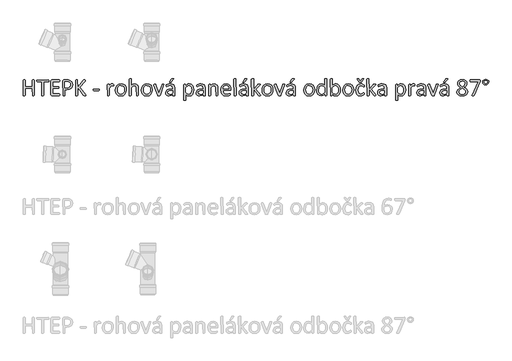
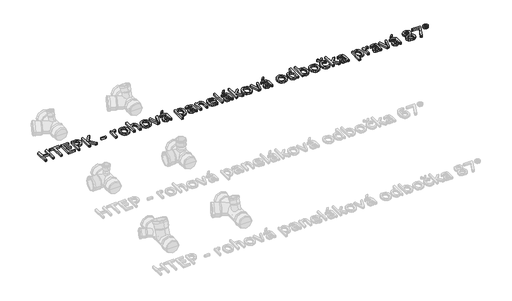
# One storey, part 12 of 26: 1 proxy.
"""IFC4 building model written with IfcOpenShell, lengths in millimetres."""

from ifc_helpers import new_model, si_unit, origin, origin_with_axes, place, context, project, spatial, polyline, outline, extrude, element, save

model = new_model("IFC4")

# Units and contexts
model_context = context("Model", 3, world=origin())
ifc_project = project(units=[si_unit("LENGTHUNIT", "METRE", prefix="MILLI")], contexts=[model_context])

# Site, building, storey
site = spatial("IfcSite", under=ifc_project)
building = spatial("IfcBuilding", under=site)
storey = spatial("IfcBuildingStorey", under=building, Name="Podlaží 1", Elevation=0.0)

# Proxy
placement = place(None, origin())
element("IfcBuildingElementProxy", 1, Name="120mm Arial", ObjectType="120mm Arial", at=placement, inside=storey, context=model_context, shape_type="SweptSolid", body=[
    extrude(outline(polyline([(-20465.0657483, 3328.0506997), (-20469.2817655, 3325.3184311), (-20473.1358927, 3325.0832026), (-20477.1166815, 3325.3184311), (-20479.5775327, 3325.8612659), (-20481.2784151, 3380.6694889), (-20534.5486061, 3380.6694889), (-20534.5486061, 3328.0145107), (-20538.7465288, 3325.3184311), (-20542.6549395, 3325.0832026), (-20546.5271613, 3325.3184311), (-20549.0603905, 3325.8793604), (-20550.7612729, 3442.5526591), (-20546.5271613, 3445.2849277), (-20542.6549395, 3445.5201562), (-20538.7465288, 3445.2849277), (-20536.2494886, 3444.7239984), (-20534.5486061, 3394.5660604), (-20481.2784151, 3394.5660604), (-20481.2784151, 3442.5526591), (-20477.1166815, 3445.2849277), (-20473.1358927, 3445.5201562), (-20469.2817655, 3445.2849277), (-20466.7666308, 3444.7239984), (-20465.0657483, 3328.0506997)])), origin_with_axes(), (0.0, 0.0, 1.0), 15.0),
    extrude(outline(polyline([(-20356.2092711, 3438.4633034), (-20356.390216, 3435.3329559), (-20356.9873343, 3433.1978056), (-20393.2667952, 3431.6235846), (-20393.2667952, 3328.0506997), (-20397.4647179, 3325.3184311), (-20401.3731287, 3325.0832026), (-20405.2453504, 3325.3184311), (-20407.7785796, 3325.8793604), (-20409.4794621, 3431.6235846), (-20443.3885442, 3431.6235846), (-20446.3017578, 3435.3329559), (-20446.5369862, 3438.4633034), (-20446.3017578, 3441.6660289), (-20445.686545, 3443.9097462), (-20359.3939021, 3445.5201562), (-20357.0054288, 3443.9097462), (-20356.390216, 3441.6660289), (-20356.2092711, 3438.4633034)])), origin_with_axes(), (0.0, 0.0, 1.0), 15.0),
    extrude(outline(polyline([(-20272.8298417, 3331.9952994), (-20273.0107867, 3328.9192354), (-20273.6621885, 3326.7298016), (-20274.7478581, 3325.463187), (-20334.0254212, 3325.0832026), (-20338.0785879, 3326.5307622), (-20339.9966043, 3331.5972206), (-20339.9966043, 3439.0061382), (-20338.0604934, 3444.0725966), (-20333.9530432, 3445.5201562), (-20276.0506617, 3445.5201562), (-20273.680283, 3443.8735572), (-20273.0650701, 3441.6841234), (-20272.8298417, 3438.4271144), (-20273.0650701, 3435.3691449), (-20273.680283, 3433.2159001), (-20323.7839374, 3431.6235846), (-20323.7839374, 3394.5660604), (-20282.9627585, 3394.5660604), (-20280.5742852, 3392.865178), (-20279.9590724, 3390.6757442), (-20279.7781275, 3387.3644517), (-20279.9590724, 3384.2702932), (-20280.5742852, 3382.1713319), (-20323.7839374, 3380.6694889), (-20323.7839374, 3338.9797742), (-20276.0868507, 3338.9797742), (-20273.6621885, 3337.3874587), (-20273.0107867, 3335.2342139), (-20272.8298417, 3331.9952994)])), origin_with_axes(), (0.0, 0.0, 1.0), 15.0),
    extrude(outline(polyline([(-20173.2377455, 3410.4892153), (-20176.2052426, 3394.3127375), (-20184.7096549, 3382.0265759), (-20198.2805255, 3374.1735655), (-20217.4606894, 3371.4051078), (-20231.140127, 3371.4051078), (-20231.140127, 3328.0506997), (-20232.8771985, 3325.8793604), (-20235.3380497, 3325.3184311), (-20239.2464605, 3325.0832026), (-20243.1548712, 3325.3184311), (-20245.6519114, 3325.8793604), (-20247.3527939, 3438.6804373), (-20245.3985885, 3443.9459352), (-20241.0197209, 3445.5201562), (-20215.1807831, 3445.5201562), (-20207.6896625, 3445.1944553), (-20199.2033447, 3443.8011792), (-20189.2151839, 3439.838485), (-20180.6022047, 3432.6911598), (-20175.1557619, 3422.8477549), (-20173.2377455, 3410.4892153)]), holes=[polyline([(-20189.4504124, 3409.2226008), (-20192.2369645, 3421.0021165), (-20199.1309668, 3428.0408747), (-20207.6172846, 3430.9902773), (-20216.1578858, 3431.6235846), (-20231.140127, 3431.6235846), (-20231.140127, 3385.3016794), (-20216.5197757, 3385.3016794), (-20204.3059921, 3387.0930343), (-20196.1453752, 3392.0509257), (-20191.1512948, 3399.6325188), (-20189.4504124, 3409.2226008)])]), origin_with_axes(), (0.0, 0.0, 1.0), 15.0),
    extrude(outline(polyline([(-20071.7095385, 3328.9373299), (-20073.1390035, 3325.9155494), (-20075.6541382, 3325.3184311), (-20079.7253994, 3325.0832026), (-20085.0089917, 3325.35462), (-20088.0669613, 3326.3679117), (-20089.7497492, 3328.0506997), (-20133.8641261, 3387.6901526), (-20133.8641261, 3328.0506997), (-20135.5650086, 3325.8793604), (-20138.0620488, 3325.3184311), (-20141.9704595, 3325.0832026), (-20145.8426813, 3325.3184311), (-20148.3759105, 3325.8793604), (-20149.6968086, 3326.8021796), (-20149.6968086, 3442.5526591), (-20145.8426813, 3445.2849277), (-20141.9704595, 3445.5201562), (-20138.0620488, 3445.2849277), (-20135.5650086, 3444.7239984), (-20133.8641261, 3389.535791), (-20091.4144427, 3442.5526591), (-20090.0935446, 3443.9459352), (-20088.3021897, 3444.8325654), (-20085.714677, 3445.3392112), (-20081.7519828, 3445.5201562), (-20077.879761, 3445.2849277), (-20075.5093823, 3444.6878094), (-20074.5684686, 3440.1641859), (-20076.8664693, 3436.8347989), (-20116.6381676, 3389.535791), (-20073.7904053, 3332.9362131), (-20071.7095385, 3328.9373299)])), origin_with_axes(), (0.0, 0.0, 1.0), 15.0),
    extrude(outline(polyline([(-19969.4213627, 3370.2832492), (-19970.2718039, 3365.7234367), (-19972.7507496, 3364.4568221), (-20012.341503, 3364.4568221), (-20014.8928266, 3365.7596256), (-20015.7432679, 3370.2832492), (-20014.8928266, 3374.7706838), (-20012.341503, 3376.0372984), (-19972.7507496, 3376.0372984), (-19969.6565911, 3372.9974233), (-19969.4213627, 3370.2832492)])), origin_with_axes(), (0.0, 0.0, 1.0), 15.0),
    extrude(outline(polyline([(-19858.2487902, 3406.1465367), (-19858.3392627, 3402.8533388), (-19858.7011525, 3400.7181885), (-19862.2476734, 3399.5058574), (-19864.5818632, 3400.3382041), (-19867.4950767, 3401.1343618), (-19870.9873141, 3401.5143462), (-19875.4023707, 3400.519149), (-19879.9440888, 3397.2621401), (-19884.9200747, 3391.254768), (-19890.6741238, 3382.0808594), (-19890.6741238, 3327.9059437), (-19894.7996685, 3325.2641476), (-19898.8166462, 3325.0832026), (-19902.761246, 3325.2641476), (-19905.2582862, 3325.8069824), (-19906.8867906, 3410.2720814), (-19903.1593248, 3412.9500666), (-19899.504237, 3413.0948225), (-19895.9215271, 3412.9500666), (-19893.7139989, 3412.4072317), (-19892.2302503, 3398.2573373), (-19885.9695553, 3406.8341275), (-19880.4145456, 3412.0634363), (-19875.2395203, 3414.687138), (-19870.0464004, 3415.4109178), (-19867.4046043, 3415.2842563), (-19864.2923513, 3414.795705), (-19861.3610432, 3413.9814527), (-19859.5154048, 3413.0948225), (-19858.2849792, 3409.4035457), (-19858.2487902, 3406.1465367)])), origin_with_axes(), (0.0, 0.0, 1.0), 15.0),
    extrude(outline(polyline([(-19760.9727893, 3369.9937373), (-19763.6507744, 3351.0126129), (-19771.6666353, 3336.0665606), (-19785.0203721, 3326.2774393), (-19803.6034176, 3322.7671074), (-19821.5169669, 3325.8612659), (-19834.2554908, 3334.8542295), (-19841.8551784, 3349.1850689), (-19844.3522186, 3368.2928548), (-19841.7104225, 3387.2739793), (-19833.748845, 3402.201937), (-19820.4493918, 3411.9367749), (-19801.8301572, 3415.4109178), (-19783.8985134, 3412.3167593), (-19771.1599895, 3403.3237956), (-19763.5241129, 3388.9929562), (-19760.9727893, 3369.9937373)]), holes=[polyline([(-19777.1854561, 3368.9080676), (-19778.4339762, 3381.4837411), (-19782.5414264, 3391.8699808), (-19790.2677754, 3398.9268335), (-19802.44537, 3401.5143462), (-19814.0077518, 3399.1439675), (-19821.9693293, 3392.4490046), (-19826.6196143, 3382.2075209), (-19828.1395518, 3369.2699575), (-19826.8910317, 3356.6219061), (-19822.7473925, 3346.2718554), (-19814.96676, 3339.2511916), (-19802.8072599, 3336.6636789), (-19791.2810671, 3339.0340577), (-19783.2652061, 3345.6747371), (-19778.6511101, 3355.8800318), (-19777.1854561, 3368.9080676)])]), origin_with_axes(), (0.0, 0.0, 1.0), 15.0),
    extrude(outline(polyline([(-19668.3289789, 3327.9421327), (-19672.4545235, 3325.2641476), (-19676.3991233, 3325.0832026), (-19680.416101, 3325.2641476), (-19682.8588577, 3325.8069824), (-19684.5416457, 3376.2906213), (-19685.6092208, 3387.6539636), (-19688.7033794, 3395.0908008), (-19693.9688772, 3399.8677472), (-19701.4419033, 3401.5143462), (-19712.4252613, 3397.479274), (-19723.9152651, 3385.6273803), (-19723.9152651, 3327.9421327), (-19728.0408098, 3325.2641476), (-19732.0577875, 3325.0832026), (-19736.0023872, 3325.2641476), (-19738.4994274, 3325.8250769), (-19740.1279319, 3451.8170401), (-19736.0023872, 3454.6035923), (-19732.0577875, 3454.7845372), (-19728.0408098, 3454.6035923), (-19725.5980531, 3454.0426629), (-19724.313344, 3453.1017492), (-19723.9152651, 3401.7314801), (-19710.8872293, 3412.0453419), (-19697.6782485, 3415.4109178), (-19683.8540549, 3412.5881767), (-19674.7887133, 3405.0427726), (-19669.8308219, 3393.9870366), (-19668.3289789, 3378.6790945), (-19668.3289789, 3327.9421327)])), origin_with_axes(), (0.0, 0.0, 1.0), 15.0),
    extrude(outline(polyline([(-19561.7885969, 3369.9937373), (-19564.466582, 3351.0126129), (-19572.482443, 3336.0665606), (-19585.8361797, 3326.2774393), (-19604.4192253, 3322.7671074), (-19622.3327746, 3325.8612659), (-19635.0712985, 3334.8542295), (-19642.6709861, 3349.1850689), (-19645.1680263, 3368.2928548), (-19642.5262301, 3387.2739793), (-19634.5646526, 3402.201937), (-19621.2651994, 3411.9367749), (-19602.6459648, 3415.4109178), (-19584.7143211, 3412.3167593), (-19571.9757971, 3403.3237956), (-19564.3399206, 3388.9929562), (-19561.7885969, 3369.9937373)]), holes=[polyline([(-19578.0012637, 3368.9080676), (-19579.2497838, 3381.4837411), (-19583.357234, 3391.8699808), (-19591.083583, 3398.9268335), (-19603.2611777, 3401.5143462), (-19614.8235595, 3399.1439675), (-19622.7851369, 3392.4490046), (-19627.4354219, 3382.2075209), (-19628.9553594, 3369.2699575), (-19627.7068393, 3356.6219061), (-19623.5632002, 3346.2718554), (-19615.7825677, 3339.2511916), (-19603.6230675, 3336.6636789), (-19592.0968747, 3339.0340577), (-19584.0810138, 3345.6747371), (-19579.4669178, 3355.8800318), (-19578.0012637, 3368.9080676)])]), origin_with_axes(), (0.0, 0.0, 1.0), 15.0),
    extrude(outline(polyline([(-19472.4289372, 3411.502507), (-19500.9187183, 3328.3764006), (-19501.895821, 3326.7298016), (-19503.7052705, 3325.7346044), (-19506.76324, 3325.2279586), (-19511.413525, 3325.0832026), (-19516.027621, 3325.2641476), (-19519.0494016, 3325.8069824), (-19520.858851, 3326.8202741), (-19521.8721427, 3328.3764006), (-19550.2443096, 3406.6169936), (-19550.8414279, 3408.5169155), (-19547.2406235, 3413.00435), (-19543.6579137, 3413.0948225), (-19539.3514241, 3412.9500666), (-19536.8543839, 3412.4434207), (-19534.7554225, 3410.1635145), (-19511.1963911, 3342.2729721), (-19487.2754697, 3410.1635145), (-19485.3031698, 3412.4434207), (-19482.8785076, 3412.9500666), (-19478.8434354, 3413.0948225), (-19475.315009, 3413.00435), (-19472.4289372, 3411.502507)])), origin_with_axes(), (0.0, 0.0, 1.0), 15.0),
    extrude(outline(polyline([(-19415.9107845, 3451.4913392), (-19414.5717919, 3453.0836547), (-19412.708059, 3454.0607574), (-19409.9757904, 3454.6035923), (-19406.0673797, 3454.7845372), (-19401.724701, 3454.4769308), (-19399.4086058, 3453.5903006), (-19399.6619287, 3450.6589925), (-19416.9602652, 3429.8503242), (-19418.3535412, 3428.4208591), (-19419.7830063, 3427.5704179), (-19421.8819676, 3427.1180555), (-19425.1027876, 3426.9913941), (-19428.4321745, 3427.2628115), (-19430.169246, 3427.9865913), (-19429.7711671, 3430.8274268), (-19415.9107845, 3451.4913392)])), origin_with_axes(), (0.0, 0.0, 1.0), 15.0),
    extrude(outline(polyline([(-19390.3975477, 3327.8697547), (-19391.1937054, 3326.1869668), (-19393.3650447, 3325.35462), (-19397.4182114, 3325.0832026), (-19401.5256616, 3325.35462), (-19403.7512844, 3326.1869668), (-19404.4388752, 3327.8697547), (-19404.4388752, 3336.1932221), (-19416.6345643, 3326.5669512), (-19430.8930257, 3322.7671074), (-19442.8534864, 3324.4860843), (-19451.955017, 3329.4620702), (-19457.7995386, 3337.4598367), (-19459.8804055, 3348.2441552), (-19457.0033809, 3360.5122223), (-19448.7522915, 3369.1613906), (-19435.5975942, 3374.3183214), (-19418.0821238, 3376.0372984), (-19406.6102145, 3376.0372984), (-19406.6102145, 3382.9493951), (-19407.6235062, 3391.9966423), (-19410.8805151, 3398.5468492), (-19416.6888478, 3402.4914489), (-19425.4646775, 3403.8304415), (-19435.5071217, 3402.3828819), (-19443.2877543, 3399.198251), (-19448.878953, 3396.01362), (-19452.2083399, 3394.5660604), (-19455.06727, 3398.0944868), (-19455.2482149, 3400.7543775), (-19454.922514, 3404.5542212), (-19453.3301986, 3407.2141119), (-19448.9875199, 3409.928286), (-19441.8944782, 3412.6062712), (-19433.1186485, 3414.61476), (-19423.5104721, 3415.4109178), (-19408.130152, 3413.3662399), (-19397.8705738, 3407.3950568), (-19392.1708081, 3397.6421245), (-19390.3975477, 3384.0350648), (-19390.3975477, 3327.8697547)]), holes=[polyline([(-19406.6102145, 3364.4568221), (-19419.4934944, 3364.4568221), (-19430.2416239, 3363.3892469), (-19437.823217, 3360.2408049), (-19442.2563681, 3355.2467245), (-19443.6677386, 3348.5336671), (-19439.6145719, 3338.1836164), (-19428.2512296, 3334.3475837), (-19417.2497771, 3337.4055532), (-19406.6102145, 3346.7604067), (-19406.6102145, 3364.4568221)])]), origin_with_axes(), (0.0, 0.0, 1.0), 15.0),
    extrude(outline(polyline([(-19244.4835463, 3370.3556272), (-19246.7996415, 3350.505967), (-19253.6031714, 3335.5599148), (-19264.7312853, 3326.0964943), (-19279.912566, 3322.7671074), (-19286.6256233, 3323.5089816), (-19292.6691844, 3325.8612659), (-19298.5318005, 3329.8963381), (-19304.702023, 3335.6141983), (-19304.702023, 3293.3454598), (-19306.384811, 3291.083648), (-19308.8275677, 3290.5227187), (-19312.8445454, 3290.3417737), (-19316.7891452, 3290.5227187), (-19319.2861854, 3291.083648), (-19320.5708945, 3292.0245617), (-19320.5708945, 3410.1997034), (-19317.1872241, 3412.9500666), (-19313.8216481, 3413.0948225), (-19310.4379777, 3412.9681611), (-19308.2304494, 3412.4977042), (-19306.6562284, 3399.8496527), (-19299.4727142, 3406.6893716), (-19292.5063339, 3411.5206015), (-19285.3047252, 3414.4338151), (-19277.5240927, 3415.4109178), (-19262.3247176, 3411.8463024), (-19252.0832339, 3402.1114645), (-19246.3110902, 3387.7444361), (-19244.4835463, 3370.3556272)]), holes=[polyline([(-19260.6962131, 3368.5823667), (-19261.6371268, 3380.8504338), (-19264.8760413, 3391.3814295), (-19271.0462638, 3398.7458886), (-19280.6725347, 3401.5143462), (-19286.3542059, 3400.663905), (-19292.0177826, 3397.9497309), (-19298.0432492, 3393.0642174), (-19304.702023, 3385.6273803), (-19304.702023, 3352.080188), (-19293.1034522, 3340.6263732), (-19281.5772594, 3336.6636789), (-19271.9871775, 3339.4321366), (-19265.5093486, 3346.7965957), (-19261.8723552, 3357.0923629), (-19260.6962131, 3368.5823667)])]), origin_with_axes(), (0.0, 0.0, 1.0), 15.0),
    extrude(outline(polyline([(-19156.4719264, 3327.8697547), (-19157.2680841, 3326.1869668), (-19159.4394235, 3325.35462), (-19163.4925902, 3325.0832026), (-19167.6000403, 3325.35462), (-19169.8256631, 3326.1869668), (-19170.5132539, 3327.8697547), (-19170.5132539, 3336.1932221), (-19182.708943, 3326.5669512), (-19196.9674045, 3322.7671074), (-19208.9278651, 3324.4860843), (-19218.0293957, 3329.4620702), (-19223.8739174, 3337.4598367), (-19225.9547842, 3348.2441552), (-19223.0777596, 3360.5122223), (-19214.8266703, 3369.1613906), (-19201.671973, 3374.3183214), (-19184.1565026, 3376.0372984), (-19172.6845932, 3376.0372984), (-19172.6845932, 3382.9493951), (-19173.6978849, 3391.9966423), (-19176.9548939, 3398.5468492), (-19182.7632265, 3402.4914489), (-19191.5390562, 3403.8304415), (-19201.5815005, 3402.3828819), (-19209.362133, 3399.198251), (-19214.9533317, 3396.01362), (-19218.2827187, 3394.5660604), (-19221.1416487, 3398.0944868), (-19221.3225937, 3400.7543775), (-19220.9968928, 3404.5542212), (-19219.4045773, 3407.2141119), (-19215.0618987, 3409.928286), (-19207.9688569, 3412.6062712), (-19199.1930273, 3414.61476), (-19189.5848508, 3415.4109178), (-19174.2045307, 3413.3662399), (-19163.9449525, 3407.3950568), (-19158.2451868, 3397.6421245), (-19156.4719264, 3384.0350648), (-19156.4719264, 3327.8697547)]), holes=[polyline([(-19172.6845932, 3364.4568221), (-19185.5678731, 3364.4568221), (-19196.3160027, 3363.3892469), (-19203.8975957, 3360.2408049), (-19208.3307468, 3355.2467245), (-19209.7421174, 3348.5336671), (-19205.6889507, 3338.1836164), (-19194.3256083, 3334.3475837), (-19183.3241558, 3337.4055532), (-19172.6845932, 3346.7604067), (-19172.6845932, 3364.4568221)])]), origin_with_axes(), (0.0, 0.0, 1.0), 15.0),
    extrude(outline(polyline([(-19059.1959255, 3327.9421327), (-19063.3214702, 3325.2641476), (-19067.2660699, 3325.0832026), (-19071.2830476, 3325.2641476), (-19073.7258043, 3325.8069824), (-19075.4085923, 3376.2906213), (-19076.4761675, 3387.6539636), (-19079.570326, 3395.0908008), (-19084.8358238, 3399.8677472), (-19092.3088499, 3401.5143462), (-19103.2922079, 3397.479274), (-19114.7822117, 3385.6273803), (-19114.7822117, 3327.9421327), (-19118.9077564, 3325.2641476), (-19122.9247341, 3325.0832026), (-19126.8693339, 3325.2641476), (-19129.3663741, 3325.8069824), (-19130.9948785, 3410.2720814), (-19127.2674127, 3412.9500666), (-19123.6123249, 3413.0948225), (-19120.029615, 3412.9500666), (-19117.8220867, 3412.4072317), (-19116.3383382, 3399.3791959), (-19102.4960501, 3411.5567905), (-19088.5813841, 3415.4109178), (-19074.7571905, 3412.5881767), (-19065.6737544, 3405.0427726), (-19060.6977685, 3393.9870366), (-19059.1959255, 3378.7514725), (-19059.1959255, 3327.9421327)])), origin_with_axes(), (0.0, 0.0, 1.0), 15.0),
    extrude(outline(polyline([(-18959.6038293, 3373.3955022), (-18961.3951842, 3368.2928548), (-18965.5026344, 3366.7729173), (-19019.8223061, 3366.7729173), (-19018.465219, 3353.3829916), (-19013.9596899, 3343.1776969), (-19005.7447896, 3336.6274899), (-18993.3681555, 3334.3475837), (-18983.0904828, 3335.4151588), (-18975.2736613, 3337.8217266), (-18969.8634075, 3340.2282943), (-18966.660682, 3341.2958695), (-18964.3626813, 3338.4007504), (-18964.2360198, 3335.7589542), (-18964.3264923, 3333.8228433), (-18968.7777379, 3328.4306841), (-18975.1289053, 3325.9336439), (-18984.1761524, 3323.7442101), (-18995.1414159, 3322.7671074), (-19012.8197368, 3325.6622265), (-19025.5763552, 3334.2752057), (-19033.3931767, 3348.6241396), (-19036.0349729, 3368.6547447), (-19033.2665153, 3388.1967985), (-19025.2868433, 3402.8895278), (-19012.6930753, 3412.1720033), (-18996.1547076, 3415.4109178), (-18979.5077729, 3412.2805703), (-18968.1987141, 3403.848536), (-18961.6846961, 3391.4176184), (-18959.6038293, 3376.1820543), (-18959.6038293, 3373.3955022)]), holes=[polyline([(-18975.8164961, 3378.3533936), (-18976.9881146, 3388.9793853), (-18981.009616, 3397.0450061), (-18987.7814804, 3402.1340826), (-18997.2041883, 3403.8304415), (-19006.8485537, 3401.7314801), (-19013.778745, 3396.1402814), (-19018.1033291, 3388.0158535), (-19019.8223061, 3378.3533936), (-18975.8164961, 3378.3533936)])]), origin_with_axes(), (0.0, 0.0, 1.0), 15.0),
    extrude(outline(polyline([(-18920.2302099, 3327.9421327), (-18924.3557546, 3325.2641476), (-18928.3727323, 3325.0832026), (-18932.317332, 3325.2641476), (-18934.8143722, 3325.8250769), (-18936.4428767, 3451.8170401), (-18932.317332, 3454.6035923), (-18928.3727323, 3454.7845372), (-18924.3557546, 3454.6035923), (-18921.9129978, 3454.0426629), (-18920.2302099, 3327.9421327)])), origin_with_axes(), (0.0, 0.0, 1.0), 15.0),
    extrude(outline(polyline([(-18827.5863995, 3327.8697547), (-18828.3825572, 3326.1869668), (-18830.5538965, 3325.35462), (-18834.6070632, 3325.0832026), (-18838.7145134, 3325.35462), (-18840.9401362, 3326.1869668), (-18841.627727, 3327.8697547), (-18841.627727, 3336.1932221), (-18853.8234161, 3326.5669512), (-18868.0818775, 3322.7671074), (-18880.0423382, 3324.4860843), (-18889.1438688, 3329.4620702), (-18894.9883904, 3337.4598367), (-18897.0692573, 3348.2441552), (-18894.1922327, 3360.5122223), (-18885.9411433, 3369.1613906), (-18872.786446, 3374.3183214), (-18855.2709756, 3376.0372984), (-18843.7990663, 3376.0372984), (-18843.7990663, 3382.9493951), (-18844.812358, 3391.9966423), (-18848.0693669, 3398.5468492), (-18853.8776996, 3402.4914489), (-18862.6535293, 3403.8304415), (-18872.6959736, 3402.3828819), (-18880.4766061, 3399.198251), (-18886.0678048, 3396.01362), (-18889.3971917, 3394.5660604), (-18892.2561218, 3398.0944868), (-18892.4370668, 3400.7543775), (-18892.1113659, 3404.5542212), (-18890.5190504, 3407.2141119), (-18886.1763718, 3409.928286), (-18879.08333, 3412.6062712), (-18870.3075003, 3414.61476), (-18860.6993239, 3415.4109178), (-18845.3190038, 3413.3662399), (-18835.0594256, 3407.3950568), (-18829.3596599, 3397.6421245), (-18827.5863995, 3384.0350648), (-18827.5863995, 3327.8697547)]), holes=[polyline([(-18843.7990663, 3364.4568221), (-18856.6823462, 3364.4568221), (-18867.4304757, 3363.3892469), (-18875.0120688, 3360.2408049), (-18879.4452199, 3355.2467245), (-18880.8565905, 3348.5336671), (-18876.8034238, 3338.1836164), (-18865.4400814, 3334.3475837), (-18854.4386289, 3337.4055532), (-18843.7990663, 3346.7604067), (-18843.7990663, 3364.4568221)])]), origin_with_axes(), (0.0, 0.0, 1.0), 15.0),
    extrude(outline(polyline([(-18853.0996363, 3451.4913392), (-18851.7606438, 3453.0836547), (-18849.8969109, 3454.0607574), (-18847.1646422, 3454.6035923), (-18843.2562315, 3454.7845372), (-18838.9135529, 3454.4769308), (-18836.5974576, 3453.5903006), (-18836.8507805, 3450.6589925), (-18854.149117, 3429.8503242), (-18855.542393, 3428.4208591), (-18856.9718581, 3427.5704179), (-18859.0708194, 3427.1180555), (-18862.2916394, 3426.9913941), (-18865.6210263, 3427.2628115), (-18867.3580978, 3427.9865913), (-18866.9600189, 3430.8274268), (-18853.0996363, 3451.4913392)])), origin_with_axes(), (0.0, 0.0, 1.0), 15.0),
    extrude(outline(polyline([(-18732.6264938, 3328.0145107), (-18736.697755, 3325.2641476), (-18740.6966382, 3325.0832026), (-18744.8221829, 3325.2279586), (-18747.572546, 3325.6803209), (-18749.3819955, 3326.5850457), (-18750.6486101, 3328.0145107), (-18785.8966848, 3373.5764471), (-18785.8966848, 3327.9059437), (-18790.0222295, 3325.2641476), (-18794.0392072, 3325.0832026), (-18797.9838069, 3325.2641476), (-18800.4808471, 3325.8250769), (-18802.1093516, 3451.8170401), (-18797.9838069, 3454.6035923), (-18794.0392072, 3454.7845372), (-18790.0222295, 3454.6035923), (-18787.5794728, 3454.0426629), (-18786.2947637, 3453.1017492), (-18785.8966848, 3375.6754085), (-18753.6884851, 3409.9101915), (-18752.0780751, 3411.4120346), (-18750.0514918, 3412.4072317), (-18747.2649396, 3412.9500666), (-18743.3746234, 3413.0948225), (-18739.3938347, 3412.9500666), (-18736.806322, 3412.4977042), (-18735.3768569, 3411.683452), (-18735.5758964, 3408.1550256), (-18737.6929522, 3405.6037019), (-18769.684018, 3375.7839754), (-18734.9064001, 3332.3210003), (-18733.1512342, 3329.8058656), (-18732.6264938, 3328.0145107)])), origin_with_axes(), (0.0, 0.0, 1.0), 15.0),
    extrude(outline(polyline([(-18637.6665882, 3369.9937373), (-18640.3445733, 3351.0126129), (-18648.3604342, 3336.0665606), (-18661.714171, 3326.2774393), (-18680.2972165, 3322.7671074), (-18698.2107658, 3325.8612659), (-18710.9492897, 3334.8542295), (-18718.5489773, 3349.1850689), (-18721.0460175, 3368.2928548), (-18718.4042214, 3387.2739793), (-18710.4426439, 3402.201937), (-18697.1431907, 3411.9367749), (-18678.5239561, 3415.4109178), (-18660.5923123, 3412.3167593), (-18647.8537884, 3403.3237956), (-18640.2179118, 3388.9929562), (-18637.6665882, 3369.9937373)]), holes=[polyline([(-18653.879255, 3368.9080676), (-18655.1277751, 3381.4837411), (-18659.2352253, 3391.8699808), (-18666.9615743, 3398.9268335), (-18679.1391689, 3401.5143462), (-18690.7015507, 3399.1439675), (-18698.6631282, 3392.4490046), (-18703.3134132, 3382.2075209), (-18704.8333507, 3369.2699575), (-18703.5848306, 3356.6219061), (-18699.4411914, 3346.2718554), (-18691.6605589, 3339.2511916), (-18679.5010588, 3336.6636789), (-18667.974866, 3339.0340577), (-18659.959005, 3345.6747371), (-18655.344909, 3355.8800318), (-18653.879255, 3368.9080676)])]), origin_with_axes(), (0.0, 0.0, 1.0), 15.0),
    extrude(outline(polyline([(-18548.3069285, 3411.502507), (-18576.7967096, 3328.3764006), (-18577.7738123, 3326.7298016), (-18579.5832617, 3325.7346044), (-18582.6412312, 3325.2279586), (-18587.2915163, 3325.0832026), (-18591.9056123, 3325.2641476), (-18594.9273928, 3325.8069824), (-18596.7368422, 3326.8202741), (-18597.7501339, 3328.3764006), (-18626.1223008, 3406.6169936), (-18626.7194192, 3408.5169155), (-18623.1186148, 3413.00435), (-18619.535905, 3413.0948225), (-18615.2294153, 3412.9500666), (-18612.7323751, 3412.4434207), (-18610.6334138, 3410.1635145), (-18587.0743823, 3342.2729721), (-18563.153461, 3410.1635145), (-18561.1811611, 3412.4434207), (-18558.7564989, 3412.9500666), (-18554.7214267, 3413.0948225), (-18551.1930003, 3413.00435), (-18548.3069285, 3411.502507)])), origin_with_axes(), (0.0, 0.0, 1.0), 15.0),
    extrude(outline(polyline([(-18466.2755389, 3327.8697547), (-18467.0716967, 3326.1869668), (-18469.243036, 3325.35462), (-18473.2962027, 3325.0832026), (-18477.4036529, 3325.35462), (-18479.6292757, 3326.1869668), (-18480.3168664, 3327.8697547), (-18480.3168664, 3336.1932221), (-18492.5125555, 3326.5669512), (-18506.771017, 3322.7671074), (-18518.7314777, 3324.4860843), (-18527.8330082, 3329.4620702), (-18533.6775299, 3337.4598367), (-18535.7583967, 3348.2441552), (-18532.8813721, 3360.5122223), (-18524.6302828, 3369.1613906), (-18511.4755855, 3374.3183214), (-18493.9601151, 3376.0372984), (-18482.4882057, 3376.0372984), (-18482.4882057, 3382.9493951), (-18483.5014974, 3391.9966423), (-18486.7585064, 3398.5468492), (-18492.566839, 3402.4914489), (-18501.3426687, 3403.8304415), (-18511.385113, 3402.3828819), (-18519.1657455, 3399.198251), (-18524.7569442, 3396.01362), (-18528.0863312, 3394.5660604), (-18530.9452613, 3398.0944868), (-18531.1262062, 3400.7543775), (-18530.8005053, 3404.5542212), (-18529.2081898, 3407.2141119), (-18524.8655112, 3409.928286), (-18517.7724695, 3412.6062712), (-18508.9966398, 3414.61476), (-18499.3884633, 3415.4109178), (-18484.0081433, 3413.3662399), (-18473.748565, 3407.3950568), (-18468.0487994, 3397.6421245), (-18466.2755389, 3384.0350648), (-18466.2755389, 3327.8697547)]), holes=[polyline([(-18482.4882057, 3364.4568221), (-18495.3714856, 3364.4568221), (-18506.1196152, 3363.3892469), (-18513.7012083, 3360.2408049), (-18518.1343593, 3355.2467245), (-18519.5457299, 3348.5336671), (-18515.4925632, 3338.1836164), (-18504.1292208, 3334.3475837), (-18493.1277683, 3337.4055532), (-18482.4882057, 3346.7604067), (-18482.4882057, 3364.4568221)])]), origin_with_axes(), (0.0, 0.0, 1.0), 15.0),
    extrude(outline(polyline([(-18491.7887758, 3451.4913392), (-18490.4497832, 3453.0836547), (-18488.5860503, 3454.0607574), (-18485.8537817, 3454.6035923), (-18481.9453709, 3454.7845372), (-18477.6026923, 3454.4769308), (-18475.286597, 3453.5903006), (-18475.53992, 3450.6589925), (-18492.8382564, 3429.8503242), (-18494.2315325, 3428.4208591), (-18495.6609975, 3427.5704179), (-18497.7599589, 3427.1180555), (-18500.9807788, 3426.9913941), (-18504.3101658, 3427.2628115), (-18506.0472372, 3427.9865913), (-18505.6491583, 3430.8274268), (-18491.7887758, 3451.4913392)])), origin_with_axes(), (0.0, 0.0, 1.0), 15.0),
    extrude(outline(polyline([(-18318.0454423, 3369.9937373), (-18320.7234274, 3351.0126129), (-18328.7392884, 3336.0665606), (-18342.0930251, 3326.2774393), (-18360.6760707, 3322.7671074), (-18378.5896199, 3325.8612659), (-18391.3281439, 3334.8542295), (-18398.9278314, 3349.1850689), (-18401.4248716, 3368.2928548), (-18398.7830755, 3387.2739793), (-18390.821498, 3402.201937), (-18377.5220448, 3411.9367749), (-18358.9028102, 3415.4109178), (-18340.9711665, 3412.3167593), (-18328.2326425, 3403.3237956), (-18320.596766, 3388.9929562), (-18318.0454423, 3369.9937373)]), holes=[polyline([(-18334.2581091, 3368.9080676), (-18335.5066292, 3381.4837411), (-18339.6140794, 3391.8699808), (-18347.3404284, 3398.9268335), (-18359.518023, 3401.5143462), (-18371.0804048, 3399.1439675), (-18379.0419823, 3392.4490046), (-18383.6922673, 3382.2075209), (-18385.2122048, 3369.2699575), (-18383.9636847, 3356.6219061), (-18379.8200455, 3346.2718554), (-18372.039413, 3339.2511916), (-18359.8799129, 3336.6636789), (-18348.3537201, 3339.0340577), (-18340.3378592, 3345.6747371), (-18335.7237631, 3355.8800318), (-18334.2581091, 3368.9080676)])]), origin_with_axes(), (0.0, 0.0, 1.0), 15.0),
    extrude(outline(polyline([(-18225.7273328, 3327.9783217), (-18229.1110032, 3325.2641476), (-18232.4222956, 3325.0832026), (-18235.8602495, 3325.2641476), (-18238.1039668, 3325.7346044), (-18239.7686603, 3338.0388605), (-18253.2128695, 3326.8021796), (-18268.4665281, 3322.7671074), (-18283.8830372, 3326.3679117), (-18294.2149934, 3336.1027496), (-18300.0052315, 3350.542156), (-18301.8327755, 3368.0033429), (-18299.5528692, 3387.6358691), (-18292.8217173, 3402.5819214), (-18281.7840759, 3412.0815308), (-18266.5485117, 3415.4109178), (-18253.3938144, 3412.1720033), (-18241.6142987, 3402.6723938), (-18241.6142987, 3451.7808512), (-18239.9496052, 3453.9883794), (-18237.452565, 3454.5493088), (-18233.6165323, 3454.7845372), (-18229.5995545, 3454.5493088), (-18227.1567978, 3453.9883794), (-18225.8358997, 3453.0655602), (-18225.7273328, 3327.9783217)]), holes=[polyline([(-18241.6142987, 3386.1702151), (-18253.230964, 3397.587841), (-18264.9200072, 3401.5143462), (-18274.5100892, 3398.7639831), (-18280.9155401, 3391.5080909), (-18284.49825, 3381.3027962), (-18285.6201086, 3369.7404144), (-18284.6791949, 3357.5085363), (-18281.4040915, 3346.9051627), (-18275.2157745, 3339.4683255), (-18265.5352201, 3336.6636789), (-18259.8535489, 3337.4779312), (-18254.2442557, 3340.1740108), (-18248.2549781, 3345.0595243), (-18241.6142987, 3352.4782669), (-18241.6142987, 3386.1702151)])]), origin_with_axes(), (0.0, 0.0, 1.0), 15.0),
    extrude(outline(polyline([(-18121.1773452, 3370.1746822), (-18123.4934404, 3350.4516835), (-18130.3150648, 3335.5056313), (-18141.3888952, 3326.0422108), (-18156.4254199, 3322.7671074), (-18163.6632176, 3323.5632651), (-18170.1772355, 3326.1507778), (-18176.5464975, 3330.6563069), (-18183.2776493, 3337.2065138), (-18183.2776493, 3327.7611878), (-18187.1679656, 3325.2641476), (-18190.551636, 3325.0832026), (-18193.8810229, 3325.2641476), (-18196.1428347, 3325.7707934), (-18197.6084888, 3451.8170401), (-18193.4829441, 3454.6035923), (-18189.5383443, 3454.7845372), (-18185.5213666, 3454.6035923), (-18183.0786099, 3454.0426629), (-18181.7939008, 3453.1017492), (-18181.3958219, 3401.5505352), (-18174.3570637, 3408.0102696), (-18167.6801953, 3412.2805703), (-18161.1480829, 3414.6690435), (-18154.2540806, 3415.4109178), (-18139.036611, 3411.7558299), (-18128.7589383, 3401.9667086), (-18122.9867946, 3387.5815857), (-18121.1773452, 3370.1746822)]), holes=[polyline([(-18137.390012, 3368.4014218), (-18138.3309257, 3380.7237724), (-18141.6241236, 3391.3090515), (-18147.8305352, 3398.7096996), (-18157.4749006, 3401.5143462), (-18163.1203828, 3400.700094), (-18168.7839595, 3397.9859198), (-18174.7732371, 3393.1185009), (-18181.3958219, 3385.6273803), (-18181.3958219, 3352.00781), (-18169.7067787, 3340.5901842), (-18158.0901134, 3336.6636789), (-18148.5543149, 3339.4321366), (-18142.112675, 3346.7423122), (-18138.5118706, 3356.947607), (-18137.390012, 3368.4014218)])]), origin_with_axes(), (0.0, 0.0, 1.0), 15.0),
    extrude(outline(polyline([(-18019.2691537, 3369.9937373), (-18021.9471389, 3351.0126129), (-18029.9629998, 3336.0665606), (-18043.3167366, 3326.2774393), (-18061.8997821, 3322.7671074), (-18079.8133314, 3325.8612659), (-18092.5518553, 3334.8542295), (-18100.1515429, 3349.1850689), (-18102.6485831, 3368.2928548), (-18100.0067869, 3387.2739793), (-18092.0452095, 3402.201937), (-18078.7457562, 3411.9367749), (-18060.1265217, 3415.4109178), (-18042.1948779, 3412.3167593), (-18029.456354, 3403.3237956), (-18021.8204774, 3388.9929562), (-18019.2691537, 3369.9937373)]), holes=[polyline([(-18035.4818206, 3368.9080676), (-18036.7303407, 3381.4837411), (-18040.8377908, 3391.8699808), (-18048.5641399, 3398.9268335), (-18060.7417345, 3401.5143462), (-18072.3041163, 3399.1439675), (-18080.2656937, 3392.4490046), (-18084.9159788, 3382.2075209), (-18086.4359163, 3369.2699575), (-18085.1873962, 3356.6219061), (-18081.043757, 3346.2718554), (-18073.2631245, 3339.2511916), (-18061.1036244, 3336.6636789), (-18049.5774316, 3339.0340577), (-18041.5615706, 3345.6747371), (-18036.9474746, 3355.8800318), (-18035.4818206, 3368.9080676)])]), origin_with_axes(), (0.0, 0.0, 1.0), 15.0),
    extrude(outline(polyline([(-17955.5765341, 3452.1065521), (-17954.4184865, 3453.3912611), (-17951.1252885, 3454.6578757), (-17948.2301694, 3454.7845372), (-17944.4484201, 3454.4769308), (-17942.6389707, 3453.5903006), (-17943.9960578, 3449.7904568), (-17958.94211, 3429.3074893), (-17960.1182521, 3428.1494417), (-17961.7105676, 3427.4799454), (-17964.0266629, 3427.1180555), (-17967.3741443, 3426.9913941), (-17970.5225863, 3427.1180555), (-17972.7482091, 3427.5161344), (-17974.2862411, 3428.2399142), (-17990.317963, 3449.7904568), (-17991.711239, 3452.0160796), (-17989.8113171, 3454.4769308), (-17986.0476623, 3454.7845372), (-17982.9354093, 3454.6578757), (-17981.0535819, 3454.2055134), (-17978.7374867, 3452.1065521), (-17967.1570104, 3435.9300742), (-17955.5765341, 3452.1065521)])), origin_with_axes(), (0.0, 0.0, 1.0), 15.0),
    extrude(outline(polyline([(-17938.2058196, 3341.7301373), (-17938.2962921, 3339.1969081), (-17938.621993, 3337.3874587), (-17940.6123874, 3333.7504654), (-17944.5027036, 3330.222039), (-17950.6729262, 3326.4764787), (-17958.1097633, 3323.7984935), (-17966.4332306, 3322.7671074), (-17982.1392516, 3325.7707934), (-17993.5930664, 3334.5466231), (-18000.6318247, 3348.6965176), (-18003.0564869, 3368.0395319), (-18000.0889899, 3389.4815076), (-17991.964562, 3404.1561424), (-17979.8231563, 3412.6424602), (-17964.6961592, 3415.4109178), (-17957.0602826, 3414.5966655), (-17950.2567528, 3412.4615152), (-17944.7198376, 3409.4216402), (-17941.2095057, 3406.4722376), (-17939.7076627, 3404.5361267), (-17939.0200719, 3402.9980947), (-17938.658182, 3401.0981728), (-17938.5677095, 3398.4382822), (-17939.3819618, 3393.6251467), (-17941.3542616, 3392.2499652), (-17944.4846091, 3393.6975247), (-17948.9539492, 3396.8821557), (-17955.5222506, 3400.0667867), (-17964.5875922, 3401.5143462), (-17974.1098198, 3399.4153849), (-17981.1078654, 3393.1185009), (-17985.4098314, 3382.8227337), (-17986.8438201, 3368.7271227), (-17985.3600716, 3354.7219842), (-17980.981204, 3344.6614454), (-17973.8700677, 3338.6359788), (-17964.2257023, 3336.6636789), (-17955.1965497, 3338.4912229), (-17948.4653979, 3342.5082006), (-17943.6703569, 3346.4708948), (-17940.6304819, 3348.2441552), (-17938.3324811, 3344.6795399), (-17938.2058196, 3341.7301373)])), origin_with_axes(), (0.0, 0.0, 1.0), 15.0),
    extrude(outline(polyline([(-17847.8781045, 3328.0145107), (-17851.9493657, 3325.2641476), (-17855.9482489, 3325.0832026), (-17860.0737936, 3325.2279586), (-17862.8241567, 3325.6803209), (-17864.6336061, 3326.5850457), (-17865.9002207, 3328.0145107), (-17901.1482955, 3373.5764471), (-17901.1482955, 3327.9059437), (-17905.2738402, 3325.2641476), (-17909.2908179, 3325.0832026), (-17913.2354176, 3325.2641476), (-17915.7324578, 3325.8250769), (-17917.3609623, 3451.8170401), (-17913.2354176, 3454.6035923), (-17909.2908179, 3454.7845372), (-17905.2738402, 3454.6035923), (-17902.8310834, 3454.0426629), (-17901.5463743, 3453.1017492), (-17901.1482955, 3375.6754085), (-17868.9400958, 3409.9101915), (-17867.3296858, 3411.4120346), (-17865.3031024, 3412.4072317), (-17862.5165503, 3412.9500666), (-17858.6262341, 3413.0948225), (-17854.6454453, 3412.9500666), (-17852.0579327, 3412.4977042), (-17850.6284676, 3411.683452), (-17850.8275071, 3408.1550256), (-17852.9445629, 3405.6037019), (-17884.9356287, 3375.7839754), (-17850.1580108, 3332.3210003), (-17848.4028448, 3329.8058656), (-17847.8781045, 3328.0145107)])), origin_with_axes(), (0.0, 0.0, 1.0), 15.0),
    extrude(outline(polyline([(-17766.8147704, 3327.8697547), (-17767.6109281, 3326.1869668), (-17769.7822674, 3325.35462), (-17773.8354342, 3325.0832026), (-17777.9428843, 3325.35462), (-17780.1685071, 3326.1869668), (-17780.8560979, 3327.8697547), (-17780.8560979, 3336.1932221), (-17793.051787, 3326.5669512), (-17807.3102485, 3322.7671074), (-17819.2707091, 3324.4860843), (-17828.3722397, 3329.4620702), (-17834.2167614, 3337.4598367), (-17836.2976282, 3348.2441552), (-17833.4206036, 3360.5122223), (-17825.1695142, 3369.1613906), (-17812.014817, 3374.3183214), (-17794.4993465, 3376.0372984), (-17783.0274372, 3376.0372984), (-17783.0274372, 3382.9493951), (-17784.0407289, 3391.9966423), (-17787.2977378, 3398.5468492), (-17793.1060705, 3402.4914489), (-17801.8819002, 3403.8304415), (-17811.9243445, 3402.3828819), (-17819.704977, 3399.198251), (-17825.2961757, 3396.01362), (-17828.6255626, 3394.5660604), (-17831.4844927, 3398.0944868), (-17831.6654377, 3400.7543775), (-17831.3397368, 3404.5542212), (-17829.7474213, 3407.2141119), (-17825.4047427, 3409.928286), (-17818.3117009, 3412.6062712), (-17809.5358712, 3414.61476), (-17799.9276948, 3415.4109178), (-17784.5473747, 3413.3662399), (-17774.2877965, 3407.3950568), (-17768.5880308, 3397.6421245), (-17766.8147704, 3384.0350648), (-17766.8147704, 3327.8697547)]), holes=[polyline([(-17783.0274372, 3364.4568221), (-17795.9107171, 3364.4568221), (-17806.6588467, 3363.3892469), (-17814.2404397, 3360.2408049), (-17818.6735908, 3355.2467245), (-17820.0849614, 3348.5336671), (-17816.0317947, 3338.1836164), (-17804.6684523, 3334.3475837), (-17793.6669998, 3337.4055532), (-17783.0274372, 3346.7604067), (-17783.0274372, 3364.4568221)])]), origin_with_axes(), (0.0, 0.0, 1.0), 15.0),
    extrude(outline(polyline([(-17620.900769, 3370.3556272), (-17623.2168643, 3350.505967), (-17630.0203941, 3335.5599148), (-17641.148508, 3326.0964943), (-17656.3297887, 3322.7671074), (-17663.042846, 3323.5089816), (-17669.0864071, 3325.8612659), (-17674.9490232, 3329.8963381), (-17681.1192458, 3335.6141983), (-17681.1192458, 3293.3454598), (-17682.8020337, 3291.083648), (-17685.2447905, 3290.5227187), (-17689.2617682, 3290.3417737), (-17693.2063679, 3290.5227187), (-17695.7034081, 3291.083648), (-17696.9881172, 3292.0245617), (-17696.9881172, 3410.1997034), (-17693.6044468, 3412.9500666), (-17690.2388709, 3413.0948225), (-17686.8552004, 3412.9681611), (-17684.6476721, 3412.4977042), (-17683.0734511, 3399.8496527), (-17675.8899369, 3406.6893716), (-17668.9235567, 3411.5206015), (-17661.721948, 3414.4338151), (-17653.9413155, 3415.4109178), (-17638.7419403, 3411.8463024), (-17628.5004566, 3402.1114645), (-17622.7283129, 3387.7444361), (-17620.900769, 3370.3556272)]), holes=[polyline([(-17637.1134358, 3368.5823667), (-17638.0543495, 3380.8504338), (-17641.293264, 3391.3814295), (-17647.4634865, 3398.7458886), (-17657.0897575, 3401.5143462), (-17662.7714286, 3400.663905), (-17668.4350053, 3397.9497309), (-17674.4604719, 3393.0642174), (-17681.1192458, 3385.6273803), (-17681.1192458, 3352.080188), (-17669.520675, 3340.6263732), (-17657.9944822, 3336.6636789), (-17648.4044002, 3339.4321366), (-17641.9265713, 3346.7965957), (-17638.289578, 3357.0923629), (-17637.1134358, 3368.5823667)])]), origin_with_axes(), (0.0, 0.0, 1.0), 15.0),
    extrude(outline(polyline([(-17549.101816, 3406.1465367), (-17549.1922884, 3402.8533388), (-17549.5541783, 3400.7181885), (-17553.1006992, 3399.5058574), (-17555.4348889, 3400.3382041), (-17558.3481025, 3401.1343618), (-17561.8403399, 3401.5143462), (-17566.2553965, 3400.519149), (-17570.7971145, 3397.2621401), (-17575.7731004, 3391.254768), (-17581.5271496, 3382.0808594), (-17581.5271496, 3327.9059437), (-17585.6526943, 3325.2641476), (-17589.669672, 3325.0832026), (-17593.6142717, 3325.2641476), (-17596.1113119, 3325.8069824), (-17597.7398164, 3410.2720814), (-17594.0123506, 3412.9500666), (-17590.3572628, 3413.0948225), (-17586.7745529, 3412.9500666), (-17584.5670246, 3412.4072317), (-17583.0832761, 3398.2573373), (-17576.8225811, 3406.8341275), (-17571.2675714, 3412.0634363), (-17566.092546, 3414.687138), (-17560.8994262, 3415.4109178), (-17558.25763, 3415.2842563), (-17555.145377, 3414.795705), (-17552.214069, 3413.9814527), (-17550.3684305, 3413.0948225), (-17549.1380049, 3409.4035457), (-17549.101816, 3406.1465367)])), origin_with_axes(), (0.0, 0.0, 1.0), 15.0),
    extrude(outline(polyline([(-17465.7223866, 3327.8697547), (-17466.5185443, 3326.1869668), (-17468.6898836, 3325.35462), (-17472.7430503, 3325.0832026), (-17476.8505005, 3325.35462), (-17479.0761233, 3326.1869668), (-17479.7637141, 3327.8697547), (-17479.7637141, 3336.1932221), (-17491.9594032, 3326.5669512), (-17506.2178647, 3322.7671074), (-17518.1783253, 3324.4860843), (-17527.2798559, 3329.4620702), (-17533.1243776, 3337.4598367), (-17535.2052444, 3348.2441552), (-17532.3282198, 3360.5122223), (-17524.0771304, 3369.1613906), (-17510.9224332, 3374.3183214), (-17493.4069627, 3376.0372984), (-17481.9350534, 3376.0372984), (-17481.9350534, 3382.9493951), (-17482.9483451, 3391.9966423), (-17486.205354, 3398.5468492), (-17492.0136867, 3402.4914489), (-17500.7895164, 3403.8304415), (-17510.8319607, 3402.3828819), (-17518.6125932, 3399.198251), (-17524.2037919, 3396.01362), (-17527.5331788, 3394.5660604), (-17530.3921089, 3398.0944868), (-17530.5730539, 3400.7543775), (-17530.247353, 3404.5542212), (-17528.6550375, 3407.2141119), (-17524.3123589, 3409.928286), (-17517.2193171, 3412.6062712), (-17508.4434874, 3414.61476), (-17498.835311, 3415.4109178), (-17483.4549909, 3413.3662399), (-17473.1954127, 3407.3950568), (-17467.495647, 3397.6421245), (-17465.7223866, 3384.0350648), (-17465.7223866, 3327.8697547)]), holes=[polyline([(-17481.9350534, 3364.4568221), (-17494.8183333, 3364.4568221), (-17505.5664629, 3363.3892469), (-17513.1480559, 3360.2408049), (-17517.581207, 3355.2467245), (-17518.9925776, 3348.5336671), (-17514.9394109, 3338.1836164), (-17503.5760685, 3334.3475837), (-17492.574616, 3337.4055532), (-17481.9350534, 3346.7604067), (-17481.9350534, 3364.4568221)])]), origin_with_axes(), (0.0, 0.0, 1.0), 15.0),
    extrude(outline(polyline([(-17371.7305364, 3411.502507), (-17400.2203175, 3328.3764006), (-17401.1974202, 3326.7298016), (-17403.0068696, 3325.7346044), (-17406.0648392, 3325.2279586), (-17410.7151242, 3325.0832026), (-17415.3292202, 3325.2641476), (-17418.3510007, 3325.8069824), (-17420.1604502, 3326.8202741), (-17421.1737418, 3328.3764006), (-17449.5459088, 3406.6169936), (-17450.1430271, 3408.5169155), (-17446.5422227, 3413.00435), (-17442.9595129, 3413.0948225), (-17438.6530232, 3412.9500666), (-17436.155983, 3412.4434207), (-17434.0570217, 3410.1635145), (-17410.4979902, 3342.2729721), (-17386.5770689, 3410.1635145), (-17384.604769, 3412.4434207), (-17382.1801068, 3412.9500666), (-17378.1450346, 3413.0948225), (-17374.6166082, 3413.00435), (-17371.7305364, 3411.502507)])), origin_with_axes(), (0.0, 0.0, 1.0), 15.0),
    extrude(outline(polyline([(-17315.2123837, 3451.4913392), (-17313.8733911, 3453.0836547), (-17312.0096582, 3454.0607574), (-17309.2773896, 3454.6035923), (-17305.3689788, 3454.7845372), (-17301.0263002, 3454.4769308), (-17298.710205, 3453.5903006), (-17298.9635279, 3450.6589925), (-17316.2618643, 3429.8503242), (-17317.6551404, 3428.4208591), (-17319.0846054, 3427.5704179), (-17321.1835668, 3427.1180555), (-17324.4043867, 3426.9913941), (-17327.7337737, 3427.2628115), (-17329.4708451, 3427.9865913), (-17329.0727663, 3430.8274268), (-17315.2123837, 3451.4913392)])), origin_with_axes(), (0.0, 0.0, 1.0), 15.0),
    extrude(outline(polyline([(-17289.6991468, 3327.8697547), (-17290.4953046, 3326.1869668), (-17292.6666439, 3325.35462), (-17296.7198106, 3325.0832026), (-17300.8272608, 3325.35462), (-17303.0528836, 3326.1869668), (-17303.7404743, 3327.8697547), (-17303.7404743, 3336.1932221), (-17315.9361634, 3326.5669512), (-17330.1946249, 3322.7671074), (-17342.1550856, 3324.4860843), (-17351.2566162, 3329.4620702), (-17357.1011378, 3337.4598367), (-17359.1820046, 3348.2441552), (-17356.3049801, 3360.5122223), (-17348.0538907, 3369.1613906), (-17334.8991934, 3374.3183214), (-17317.383723, 3376.0372984), (-17305.9118137, 3376.0372984), (-17305.9118137, 3382.9493951), (-17306.9251053, 3391.9966423), (-17310.1821143, 3398.5468492), (-17315.9904469, 3402.4914489), (-17324.7662766, 3403.8304415), (-17334.8087209, 3402.3828819), (-17342.5893534, 3399.198251), (-17348.1805521, 3396.01362), (-17351.5099391, 3394.5660604), (-17354.3688692, 3398.0944868), (-17354.5498141, 3400.7543775), (-17354.2241132, 3404.5542212), (-17352.6317977, 3407.2141119), (-17348.2891191, 3409.928286), (-17341.1960774, 3412.6062712), (-17332.4202477, 3414.61476), (-17322.8120713, 3415.4109178), (-17307.4317512, 3413.3662399), (-17297.1721729, 3407.3950568), (-17291.4724073, 3397.6421245), (-17289.6991468, 3384.0350648), (-17289.6991468, 3327.8697547)]), holes=[polyline([(-17305.9118137, 3364.4568221), (-17318.7950935, 3364.4568221), (-17329.5432231, 3363.3892469), (-17337.1248162, 3360.2408049), (-17341.5579673, 3355.2467245), (-17342.9693378, 3348.5336671), (-17338.9161711, 3338.1836164), (-17327.5528287, 3334.3475837), (-17316.5513763, 3337.4055532), (-17305.9118137, 3346.7604067), (-17305.9118137, 3364.4568221)])]), origin_with_axes(), (0.0, 0.0, 1.0), 15.0),
    extrude(outline(polyline([(-17146.1012407, 3355.7352758), (-17148.8877928, 3341.6939483), (-17156.9217483, 3331.3077086), (-17169.8955006, 3324.9203522), (-17187.5738215, 3322.7671074), (-17204.2026616, 3324.7394072), (-17216.6516737, 3330.5658344), (-17224.4684952, 3340.0473494), (-17227.1645748, 3352.9125347), (-17225.2827474, 3363.4254359), (-17219.8905881, 3372.2555491), (-17211.2414199, 3379.8190476), (-17199.6247546, 3386.532105), (-17209.377687, 3392.6661385), (-17216.5431067, 3399.7048968), (-17221.0124468, 3407.8293247), (-17222.5323843, 3417.2203672), (-17220.288667, 3429.1989224), (-17213.4851372, 3438.9156658), (-17201.8865664, 3445.4477782), (-17185.4748601, 3447.8362514), (-17169.8955006, 3445.6287231), (-17159.0568986, 3439.621351), (-17152.7600146, 3430.6464819), (-17150.7334312, 3419.5726514), (-17152.2533687, 3410.3806484), (-17156.7046143, 3402.0209921), (-17163.9243175, 3394.6384384), (-17173.7134389, 3388.1967985), (-17161.9158287, 3381.4656466), (-17153.2485659, 3373.9926205), (-17147.9287846, 3365.5424917), (-17146.1012407, 3355.7352758)]), holes=[polyline([(-17166.9460981, 3418.6317377), (-17168.2489016, 3425.9600079), (-17172.0487454, 3431.5512066), (-17178.2551569, 3435.0615385), (-17186.7052857, 3436.2557751), (-17201.3618261, 3431.5331121), (-17206.3197175, 3418.6317377), (-17205.1073864, 3411.683452), (-17201.3437316, 3405.5675129), (-17194.9020916, 3399.9220307), (-17185.6558051, 3394.2041706), (-17171.777328, 3405.2599065), (-17166.9460981, 3418.6317377)]), polyline([(-17162.3139075, 3353.4553696), (-17163.8881285, 3361.453136), (-17168.665075, 3368.1661934), (-17176.644747, 3374.2278489), (-17187.7547664, 3380.307599), (-17197.9962501, 3374.3545104), (-17205.2340478, 3368.2023824), (-17209.5043485, 3361.5436085), (-17210.951908, 3353.8172595), (-17209.4093524, 3345.5706937), (-17204.7816855, 3339.4321366), (-17197.0870018, 3335.6187219), (-17186.3433959, 3334.3475837), (-17175.9209672, 3335.6322928), (-17168.3936576, 3339.48642), (-17163.833845, 3345.5480756), (-17162.3139075, 3353.4553696)])]), origin_with_axes(), (0.0, 0.0, 1.0), 15.0),
    extrude(outline(polyline([(-17048.8252398, 3438.7166263), (-17048.9699957, 3435.7129403), (-17049.3499801, 3433.1254276), (-17050.0013819, 3430.7369544), (-17050.9603901, 3428.2941977), (-17094.4595542, 3328.7021015), (-17095.6176018, 3326.8926521), (-17097.3908623, 3325.7888879), (-17100.1412254, 3325.2279586), (-17104.2305811, 3325.0832026), (-17109.1884725, 3325.35462), (-17111.7578907, 3326.2412503), (-17112.463576, 3327.7249988), (-17111.7940797, 3329.8239601), (-17066.0873873, 3431.6235846), (-17124.0259578, 3431.6235846), (-17126.6858484, 3433.469223), (-17127.5724786, 3438.6080594), (-17127.3372502, 3441.6660289), (-17126.6315649, 3443.8192737), (-17125.5097063, 3445.1039828), (-17053.6745642, 3445.5201562), (-17051.394658, 3445.2487387), (-17049.892815, 3444.1449746), (-17049.0966572, 3442.0279188), (-17048.8252398, 3438.7166263)])), origin_with_axes(), (0.0, 0.0, 1.0), 15.0),
    extrude(outline(polyline([(-16983.9745725, 3429.6693792), (-16985.7297385, 3421.4001954), (-16990.6695354, 3414.61476), (-16998.160656, 3410.073042), (-17007.497415, 3408.462632), (-17016.6894181, 3409.9463805), (-17023.8548378, 3414.1262087), (-17028.5955953, 3420.5859431), (-17030.2964777, 3428.9455995), (-17028.4870283, 3437.4500117), (-17023.5110424, 3444.1449746), (-17016.0742053, 3448.5419367), (-17006.7736352, 3450.1523467), (-16997.6359156, 3448.6324092), (-16990.4162125, 3444.452581), (-16985.675455, 3438.0290355), (-16983.9745725, 3429.6693792)]), holes=[polyline([(-16995.5550488, 3429.3436783), (-16996.4235845, 3433.9396799), (-16998.8482468, 3437.6128622), (-17002.5576181, 3440.0194299), (-17007.2440921, 3440.8879656), (-17011.7677156, 3440.0194299), (-17015.4228035, 3437.6128622), (-17017.8474657, 3433.9939633), (-17018.7160014, 3429.5246233), (-17017.8474657, 3424.7114878), (-17015.36852, 3421.0021165), (-17011.5686762, 3418.5955488), (-17006.8460132, 3417.727013), (-17002.4128621, 3418.6317377), (-16998.8120578, 3421.1287779), (-16996.4235845, 3424.8019603), (-16995.5550488, 3429.3436783)])]), origin_with_axes(), (0.0, 0.0, 1.0), 15.0),
])

save(model, "model.ifc")
